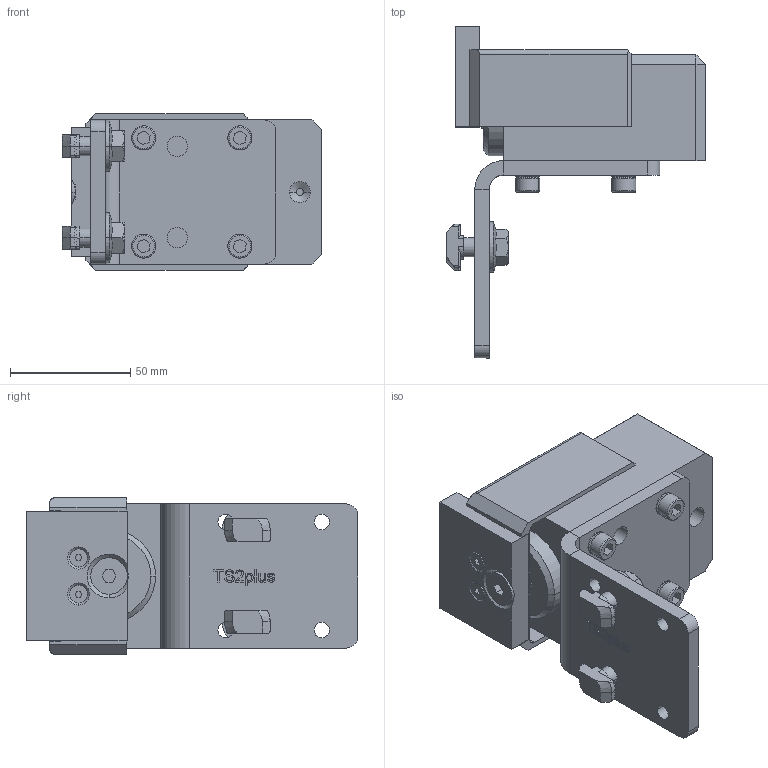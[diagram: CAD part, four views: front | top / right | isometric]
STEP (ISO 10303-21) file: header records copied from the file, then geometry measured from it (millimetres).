
FILE_DESCRIPTION (( 'STEP AP203' ), '1' );
FILE_NAME ('ASME-150-100.STEP', '2017-01-14T05:57:19', ( '' ), ( '' ), 'SwSTEP 2.0', 'SolidWorks 2015', '' );
FILE_SCHEMA (( 'CONFIG_CONTROL_DESIGN' ));
Length unit declared in the file: millimetre
Products named in the file (1): ASME-150-100
Bounding box: 107.8 x 138 x 65 mm (x, y, z)
Volume: 300052.4 mm3; surface area: 89514.3 mm2
Topology: 5 solids, 11 shells, 1003 faces, 2618 edges, 1707 vertices
Faces by surface type: plane 520, cylinder 274, bspline 116, cone 81, torus 8, sphere 4
Entity records: 38378 total; most frequent: CARTESIAN_POINT 14183, ORIENTED_EDGE 5220, DIRECTION 4677, EDGE_CURVE 2610, VERTEX_POINT 1707, LINE 1595, VECTOR 1595, AXIS2_PLACEMENT_3D 1541
